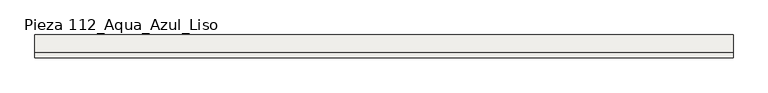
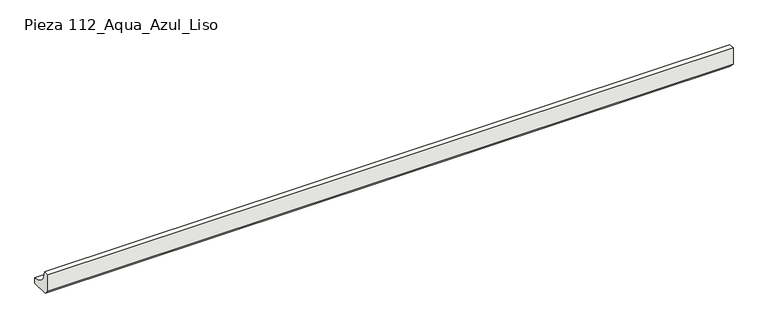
"""IFC4 building model written with IfcOpenShell, lengths in millimetres: slab geometry, ROSA GRES_112 : Pieza 112_Aqua_Azul_Liso."""

from ifc_helpers import new_model, si_unit, point, frame, frame_2d, origin, place, context, project, spatial, polyline, circle_curve, trimmed, segment, composite_curve, outline, extrude, source, transform, mapped, element, save


def pieza_112_aqua_azul_liso_38c58097(model_context):
    return source(origin(), model_context, "Body", "SweptSolid", [
        extrude(outline(composite_curve([segment(polyline([(0.0, 8.7114978), (0.0, 40.0), (9.9734114, 40.0)]), True, "CONTINUOUS"), segment(trimmed(circle_curve(frame_2d((39.9955547, 39.9955547)), 30.0221435), [point((9.9734114, 40.0))], [point((40.0, 9.9734114))], True, "CARTESIAN"), True, "CONTINUOUS"), segment(polyline([(40.0, 9.9734114), (40.0, 0.0), (8.7114978, 0.0), (0.0, 8.7114978)]), True, "CONTINUOUS")], self_intersect=False)), frame((0.0, 0.0, 0.0), z_axis=(1.0, 0.0, 0.0), x_axis=(0.0, 1.0, 0.0)), (0.0, 0.0, 1.0), 1218.2159445),
    ])


if __name__ == "__main__":
    model = new_model("IFC4")
    model_context = context("Model", 3, world=origin())
    ifc_project = project(units=[si_unit("LENGTHUNIT", "METRE", prefix="MILLI")], contexts=[model_context])
    site = spatial("IfcSite", under=ifc_project)
    building = spatial("IfcBuilding", under=site)
    placement = place(None, origin())
    pieza_112_aqua_azul_liso_shape = pieza_112_aqua_azul_liso_38c58097(model_context)
    element("IfcSlab", 1, ObjectType="ROSA GRES_112 : Pieza 112_Aqua_Azul_Liso", at=placement, inside=building, context=model_context, shape_type="MappedRepresentation", body=[
        mapped(pieza_112_aqua_azul_liso_shape, transform((0.0, 0.0, 0.0), x_axis=(1.0, 0.0, 0.0), y_axis=(0.0, 1.0, 0.0), z_axis=(0.0, 0.0, 1.0))),
    ])
    save(model, "model.ifc")
